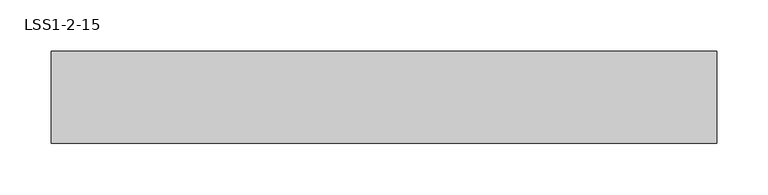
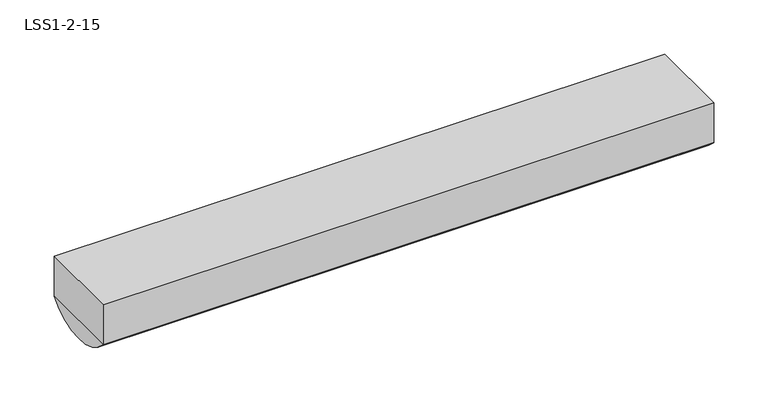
"""IFC4 building model written with IfcOpenShell, lengths in millimetres: light fixture geometry, 20401_SS1_ベースライト形_直付天井灯 : LSS1-2-15."""

from ifc_helpers import new_model, si_unit, point, frame, frame_2d, origin, place, context, project, spatial, polyline, circle_curve, trimmed, segment, composite_curve, outline, extrude, source, transform, mapped, element, save


def lss1_2_15_8d063fa1(model_context):
    return source(origin(), model_context, "Body", "SweptSolid", [
        extrude(outline(composite_curve([segment(trimmed(circle_curve(frame_2d((0.0, -4.375)), 60.625), [point((45.0, -45.0))], [point((-45.0, -45.0))], False, "CARTESIAN"), True, "CONTINUOUS"), segment(polyline([(-45.0, -45.0), (45.0, -45.0)]), True, "CONTINUOUS")], self_intersect=False)), frame((-325.0, 0.0, 0.0), z_axis=(1.0, 0.0, 0.0), x_axis=(0.0, 1.0, 0.0)), (0.0, 0.0, 1.0), 650.0),
        extrude(outline(polyline([(325.0, -45.0), (-325.0, -45.0), (-325.0, 45.0), (325.0, 45.0), (325.0, -45.0)])), frame((0.0, 0.0, -45.0), z_axis=(0.0, 0.0, 1.0), x_axis=(1.0, 0.0, 0.0)), (0.0, 0.0, 1.0), 45.0),
    ])


if __name__ == "__main__":
    model = new_model("IFC4")
    model_context = context("Model", 3, world=origin())
    ifc_project = project(units=[si_unit("LENGTHUNIT", "METRE", prefix="MILLI")], contexts=[model_context])
    site = spatial("IfcSite", under=ifc_project)
    building = spatial("IfcBuilding", under=site)
    placement = place(None, origin())
    lss1_2_15_shape = lss1_2_15_8d063fa1(model_context)
    element("IfcLightFixture", 1, ObjectType="20401_SS1_ベースライト形_直付天井灯 : LSS1-2-15", at=placement, inside=building, context=model_context, shape_type="MappedRepresentation", body=[
        mapped(lss1_2_15_shape, transform((0.0, 0.0, 0.0), x_axis=(1.0, 0.0, 0.0), y_axis=(0.0, 1.0, 0.0), z_axis=(0.0, 0.0, 1.0))),
    ])
    save(model, "model.ifc")
